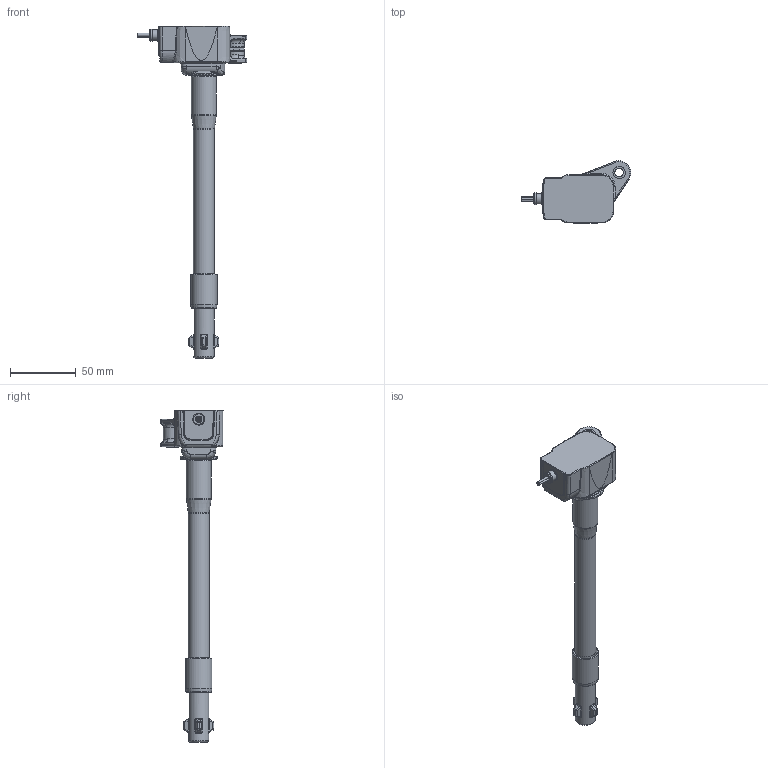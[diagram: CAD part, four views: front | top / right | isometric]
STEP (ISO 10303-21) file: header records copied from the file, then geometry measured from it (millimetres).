
FILE_DESCRIPTION(/* description */ (''),/* implementation_level */ '2;1');
FILE_NAME(/* name */ 'F02UA01369-01_MOD_001.stp',/* time_stamp */ '2026-10-19T13:27:06+02:00',/* author */ (''),/* organization */ (''),/* preprocessor_version */ 'ST-DEVELOPER v20.1',/* originating_system */ 'SIEMENS PLM Software NX2606.4002',/* authorisation */ '');
FILE_SCHEMA (('AUTOMOTIVE_DESIGN { 1 0 10303 214 3 1 1 1 }'));
Bounding box: 83.82 x 47.71 x 253.3 mm (x, y, z)
Volume: 110832.9 mm3; surface area: 25009.3 mm2
Topology: 5 solids, 5 shells, 423 faces, 969 edges, 534 vertices
Faces by surface type: cylinder 135, bspline 123, plane 81, torus 44, sphere 19, cone 12, extrusion 9
Full cylindrical faces by diameter (mm): 1.3 x3, 1.5 x1, 3.8 x1, 6.5 x1, 8 x1, 8.8 x2, 9 x2, 14.467 x1, 15.5 x1, 16 x1, 19 x1, 20 x1
Entity records: 20219 total; most frequent: CRTPNT 9008, ORNEDG 1758, DRCTN 1627, EDGCRV 879, A2PL3D 675, VRTPNT 517, EDGLP 476, ADVFC 423
